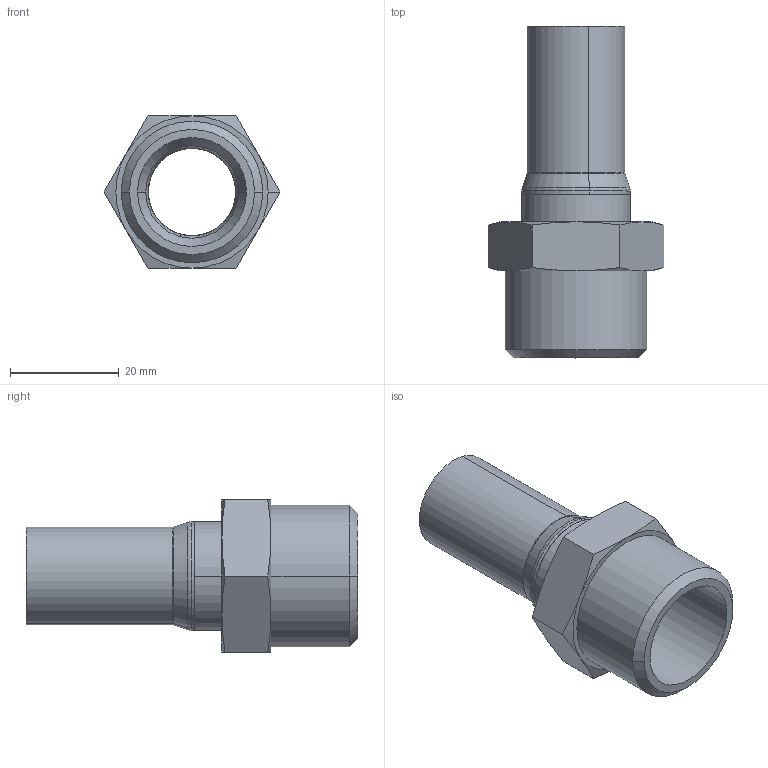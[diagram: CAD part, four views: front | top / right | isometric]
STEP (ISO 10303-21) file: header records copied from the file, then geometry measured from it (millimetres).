
FILE_DESCRIPTION (( 'STEP AP203' ), '1' );
FILE_NAME ('GDA6364.STEP', '2019-07-03T06:07:36', ( '' ), ( '' ), 'SwSTEP 2.0', 'SolidWorks 2015', '' );
FILE_SCHEMA (( 'CONFIG_CONTROL_DESIGN' ));
Length unit declared in the file: millimetre
Products named in the file (3): ETC-¢ñ-03-18¡Á?; GDA6364; 孺諳眻奪18-20
Assembly tree (2 placements, depth 2):
  GDA6364
    孺諳眻奪18-20
    ETC-¢ñ-03-18¡Á?
Bounding box: 32.33 x 61 x 28 mm (x, y, z)
Volume: 8995 mm3; surface area: 8509.9 mm2
Topology: 2 solids, 2 shells, 58 faces, 120 edges, 68 vertices
Faces by surface type: cone 22, cylinder 16, plane 12, torus 8
Entity records: 1905 total; most frequent: CARTESIAN_POINT 371, DIRECTION 286, ORIENTED_EDGE 240, AXIS2_PLACEMENT_3D 127, EDGE_CURVE 120, VERTEX_POINT 68, CIRCLE 64, EDGE_LOOP 64
